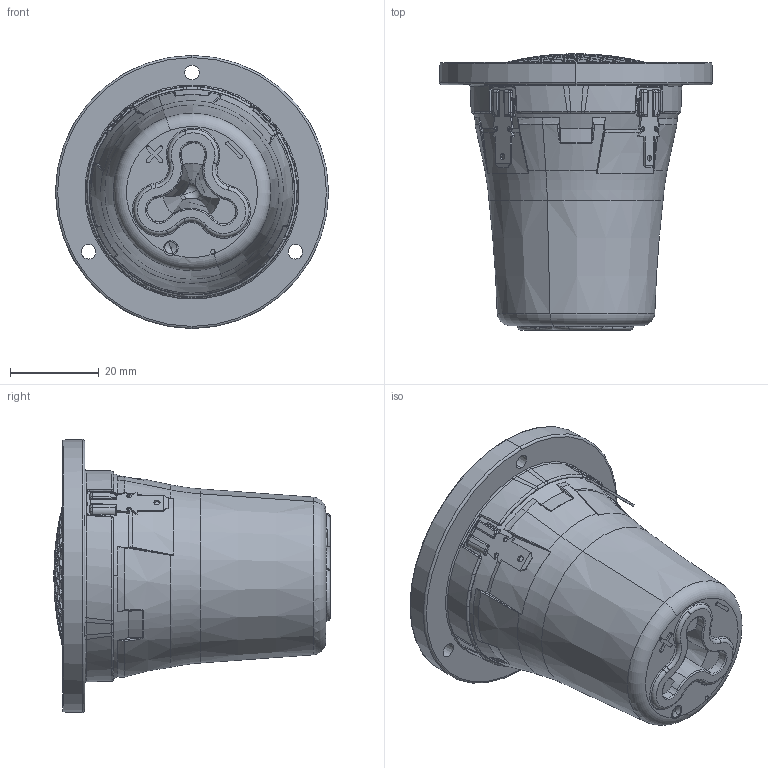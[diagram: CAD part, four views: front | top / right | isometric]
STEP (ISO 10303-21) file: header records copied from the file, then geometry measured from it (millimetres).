
FILE_DESCRIPTION (( 'STEP AP214' ), '1' );
FILE_NAME ('D3004-604010.STEP', '2020-10-29T07:26:18', ( '' ), ( '' ), 'SwSTEP 2.0', 'SolidWorks 2019', '' );
FILE_SCHEMA (( 'AUTOMOTIVE_DESIGN' ));
Length unit declared in the file: millimetre
Products named in the file (1): D3004-604010
Bounding box: 61.66 x 62.38 x 61.66 mm (x, y, z)
Volume: 79210.9 mm3; surface area: 17762.3 mm2
Topology: 1 solids, 4 shells, 1730 faces, 5179 edges, 3359 vertices
Faces by surface type: plane 1066, cylinder 267, torus 208, bspline 107, cone 68, sphere 14
Entity records: 83267 total; most frequent: CARTESIAN_POINT 16516, DIRECTION 10538, ORIENTED_EDGE 10344, EDGE_CURVE 5172, AXIS2_PLACEMENT_3D 4436, VERTEX_POINT 3359, CIRCLE 2812, EDGE_LOOP 1961
